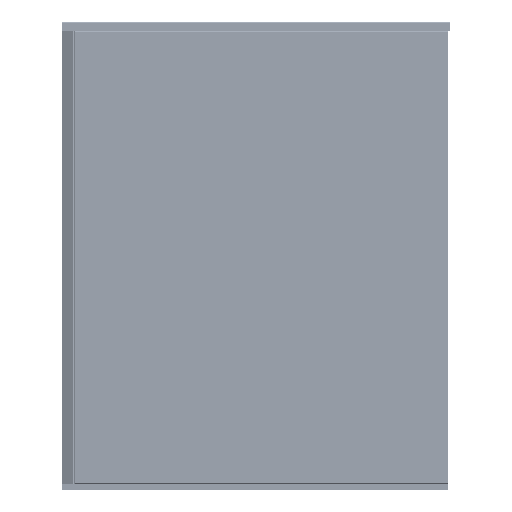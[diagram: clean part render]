
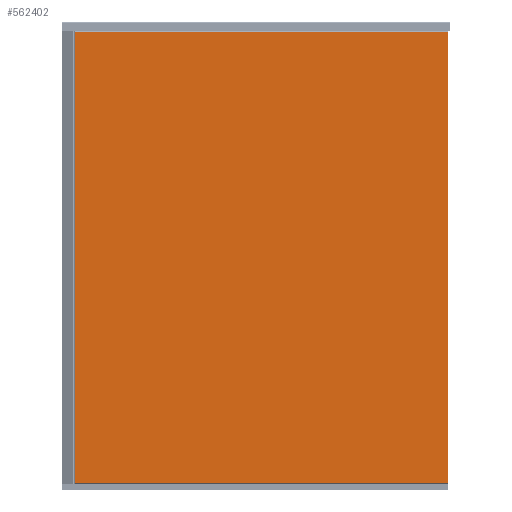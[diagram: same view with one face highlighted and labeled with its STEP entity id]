
A CAD part, left-side view. The second image highlights one B-rep face of the part: STEP entity #562402.
In plain terms, the highlighted free-form (B-spline) face has degree [1, 1] with [2, 2] control points.
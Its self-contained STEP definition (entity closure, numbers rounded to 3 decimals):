
#562109=CARTESIAN_POINT('',(-1361.73,2279.192,611.676));
#562110=VERTEX_POINT('',#562109);
#562111=CARTESIAN_POINT('',(-1361.73,2758.738,611.676));
#562112=VERTEX_POINT('',#562111);
#562113=CARTESIAN_POINT('',(-1361.73,2279.192,611.676));
#562114=DIRECTION('',(0.0,1.0,0.0));
#562115=VECTOR('',#562114,479.545);
#562116=LINE('',#562113,#562115);
#562117=EDGE_CURVE('',#562110,#562112,#562116,.T.);
#562157=CARTESIAN_POINT('',(-1361.73,2758.985,611.454));
#562158=VERTEX_POINT('',#562157);
#562159=CARTESIAN_POINT('',(-1361.73,2758.738,611.676));
#562160=DIRECTION('',(0.0,0.743,-0.669));
#562161=VECTOR('',#562160,0.333);
#562162=LINE('',#562159,#562161);
#562163=EDGE_CURVE('',#562112,#562158,#562162,.T.);
#562196=CARTESIAN_POINT('',(-1361.73,2758.985,29.899));
#562197=VERTEX_POINT('',#562196);
#562198=CARTESIAN_POINT('',(-1361.73,2758.985,611.454));
#562199=DIRECTION('',(0.0,0.0,-1.0));
#562200=VECTOR('',#562199,581.555);
#562201=LINE('',#562198,#562200);
#562202=EDGE_CURVE('',#562158,#562197,#562201,.T.);
#562228=CARTESIAN_POINT('',(-1361.73,2758.738,29.676));
#562229=VERTEX_POINT('',#562228);
#562236=CARTESIAN_POINT('',(-1361.73,2758.985,29.899));
#562237=DIRECTION('',(0.0,-0.743,-0.669));
#562238=VECTOR('',#562237,0.333);
#562239=LINE('',#562236,#562238);
#562240=EDGE_CURVE('',#562197,#562229,#562239,.T.);
#562258=CARTESIAN_POINT('',(-1361.73,2279.192,29.676));
#562259=VERTEX_POINT('',#562258);
#562266=CARTESIAN_POINT('',(-1361.73,2758.738,29.676));
#562267=DIRECTION('',(0.0,-1.0,0.0));
#562268=VECTOR('',#562267,479.545);
#562269=LINE('',#562266,#562268);
#562270=EDGE_CURVE('',#562229,#562259,#562269,.T.);
#562283=CARTESIAN_POINT('',(-1361.73,2278.985,29.884));
#562284=VERTEX_POINT('',#562283);
#562291=CARTESIAN_POINT('',(-1361.73,2279.192,29.676));
#562292=DIRECTION('',(0.0,-0.707,0.707));
#562293=VECTOR('',#562292,0.293);
#562294=LINE('',#562291,#562293);
#562295=EDGE_CURVE('',#562259,#562284,#562294,.T.);
#562307=CARTESIAN_POINT('',(-1361.73,2278.985,611.469));
#562308=VERTEX_POINT('',#562307);
#562315=CARTESIAN_POINT('',(-1361.73,2278.985,29.884));
#562316=DIRECTION('',(0.0,0.0,1.0));
#562317=VECTOR('',#562316,581.586);
#562318=LINE('',#562315,#562317);
#562319=EDGE_CURVE('',#562284,#562308,#562318,.T.);
#562337=CARTESIAN_POINT('',(-1361.73,2278.985,611.469));
#562338=DIRECTION('',(0.0,0.707,0.707));
#562339=VECTOR('',#562338,0.293);
#562340=LINE('',#562337,#562339);
#562341=EDGE_CURVE('',#562308,#562110,#562340,.T.);
#562387=CARTESIAN_POINT('',(-1361.73,2758.985,29.676));
#562388=CARTESIAN_POINT('',(-1361.73,2278.985,29.676));
#562389=CARTESIAN_POINT('',(-1361.73,2758.985,611.676));
#562390=CARTESIAN_POINT('',(-1361.73,2278.985,611.676));
#562391=B_SPLINE_SURFACE_WITH_KNOTS('',1,1,((#562387,#562389),(#562388,#562390)),.UNSPECIFIED.,.F.,.F.,.U.,(2,2),(2,2),(0.0,480.),(0.0,582.),.UNSPECIFIED.);
#562392=ORIENTED_EDGE('',*,*,#562117,.T.);
#562393=ORIENTED_EDGE('',*,*,#562163,.T.);
#562394=ORIENTED_EDGE('',*,*,#562202,.T.);
#562395=ORIENTED_EDGE('',*,*,#562240,.T.);
#562396=ORIENTED_EDGE('',*,*,#562270,.T.);
#562397=ORIENTED_EDGE('',*,*,#562295,.T.);
#562398=ORIENTED_EDGE('',*,*,#562319,.T.);
#562399=ORIENTED_EDGE('',*,*,#562341,.T.);
#562400=EDGE_LOOP('',(#562392,#562393,#562394,#562395,#562396,#562397,#562398,#562399));
#562401=FACE_OUTER_BOUND('',#562400,.T.);
#562402=ADVANCED_FACE('',(#562401),#562391,.T.);
